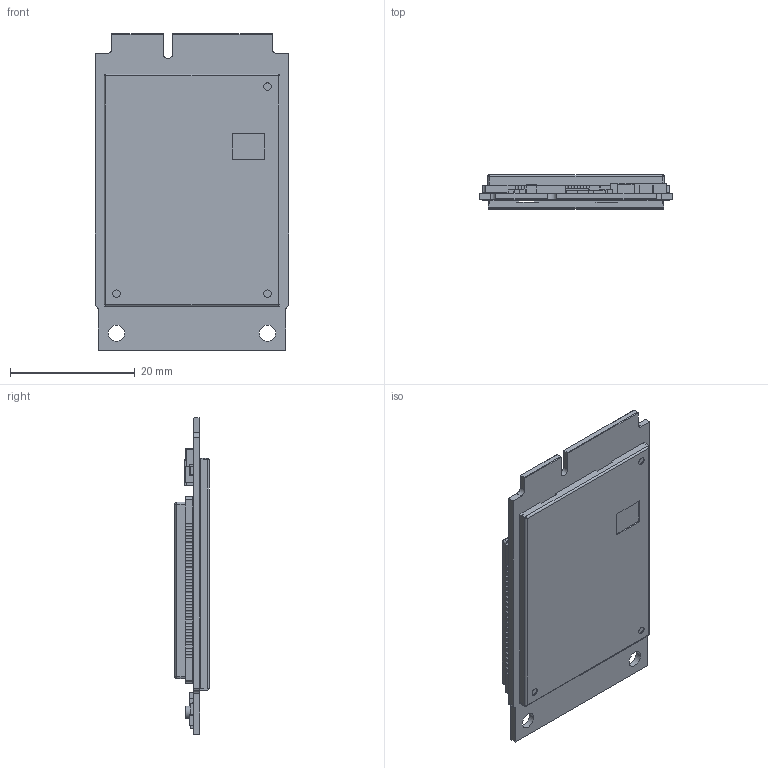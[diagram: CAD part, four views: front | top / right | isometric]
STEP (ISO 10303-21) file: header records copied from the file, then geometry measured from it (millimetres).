
FILE_DESCRIPTION((''),'2;1');
FILE_NAME('SIM7600_SERIES-PCIE_V108_ASM_ASM','2018-12-05T',('xinghai.wang'),(''),'PRO/ENGINEER BY PARAMETRIC TECHNOLOGY CORPORATION, 2014090','PRO/ENGINEER BY PARAMETRIC TECHNOLOGY CORPORATION, 2014090','');
FILE_SCHEMA(('AUTOMOTIVE_DESIGN { 1 0 10303 214 1 1 1 1 }'));
Length unit declared in the file: millimetre
Products named in the file (15): SIM7600_SERIES-PCB; SIM7600_PCB; SIM7600_ASM_ASM; RF-IPEX20279_6_1; SIM7500A_PCIE_SHIELD_CASE; CAP0402_3_1; RES-0805_3_1; NRS4018T2R2MDGJ_4_1; AAT2215_3_1; TCAP0805-1_2MM_3_1; 592D_A_3_1; ESD9L5_1_3_1; RES0402_3_1; ASM0001_ASM_1_ASM; SIM7600_SERIES-PCIE_V108_ASM_ASM
Assembly tree (39 placements, depth 3):
  SIM7600_SERIES-PCIE_V108_ASM_ASM
    SIM7600_SERIES-PCB
    SIM7600_ASM_ASM
      SIM7600_PCB
    RF-IPEX20279_6_1  x3
    SIM7500A_PCIE_SHIELD_CASE
    ASM0001_ASM_1_ASM
      CAP0402_3_1  x11
      RES-0805_3_1  x2
      NRS4018T2R2MDGJ_4_1
      AAT2215_3_1
      TCAP0805-1_2MM_3_1  x3
      592D_A_3_1  x4
      ESD9L5_1_3_1
      RES0402_3_1  x8
Bounding box: 31 x 5.5 x 50.8 mm (x, y, z)
Volume: 4336.5 mm3; surface area: 8310.2 mm2
Topology: 37 solids, 37 shells, 597 faces, 1907 edges, 1465 vertices
Faces by surface type: plane 451, cylinder 142, sphere 4
Entity records: 21243 total; most frequent: DIRECTION 2753, CARTESIAN_POINT 2745, ORIENTED_EDGE 2212, PRESENTATION_STYLE_ASSIGNMENT 1338, STYLED_ITEM 1338, CURVE_STYLE 1335, VECTOR 1129, LINE 1129
